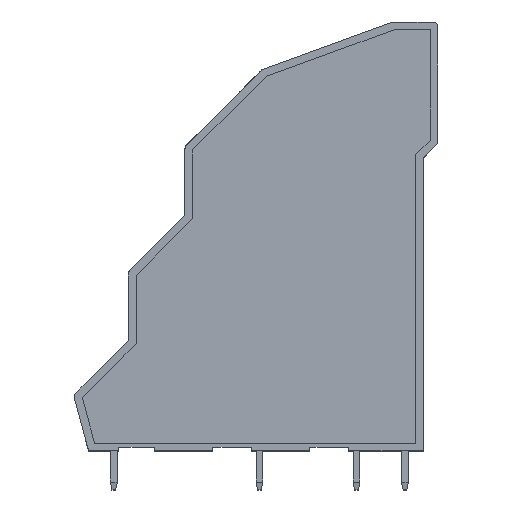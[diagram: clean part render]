
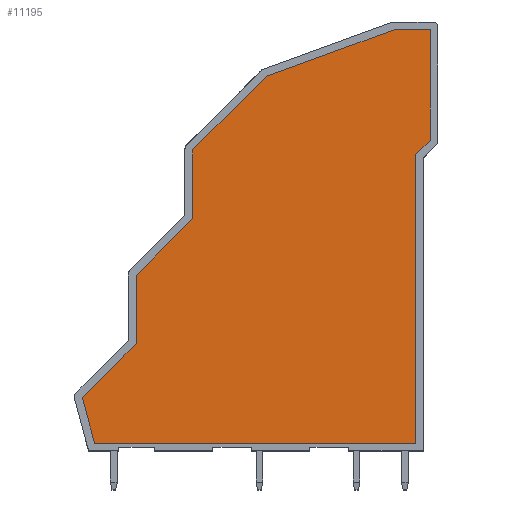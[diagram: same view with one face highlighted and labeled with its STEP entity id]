
A CAD part, top view. The second image highlights one B-rep face of the part: STEP entity #11195.
In plain terms, the highlighted planar face has unit normal (0, 0, 1).
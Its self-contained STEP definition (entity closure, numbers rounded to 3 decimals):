
#3077=DIRECTION('',(0.707,0.707,0.));
#3078=VECTOR('',#3077,10.742);
#3079=CARTESIAN_POINT('',(12.232,31.014,6.8));
#3080=LINE('',#3079,#3078);
#3081=DIRECTION('',(0.94,0.342,0.));
#3082=VECTOR('',#3081,14.005);
#3083=CARTESIAN_POINT('',(19.828,38.61,6.8));
#3084=LINE('',#3083,#3082);
#3085=DIRECTION('',(1.,0.,0.));
#3086=VECTOR('',#3085,3.711);
#3087=CARTESIAN_POINT('',(32.989,43.4,6.8));
#3088=LINE('',#3087,#3086);
#3089=DIRECTION('',(0.,-1.,0.));
#3090=VECTOR('',#3089,11.369);
#3091=CARTESIAN_POINT('',(36.7,43.4,6.8));
#3092=LINE('',#3091,#3090);
#3093=DIRECTION('',(-0.707,-0.707,0.));
#3094=VECTOR('',#3093,2.121);
#3095=CARTESIAN_POINT('',(36.7,32.031,6.8));
#3096=LINE('',#3095,#3094);
#3097=DIRECTION('',(0.,-1.,0.));
#3098=VECTOR('',#3097,29.731);
#3099=CARTESIAN_POINT('',(35.2,30.531,6.8));
#3100=LINE('',#3099,#3098);
#3101=DIRECTION('',(-1.,0.,0.));
#3102=VECTOR('',#3101,33.086);
#3103=CARTESIAN_POINT('',(35.2,0.8,6.8));
#3104=LINE('',#3103,#3102);
#3105=DIRECTION('',(-0.259,0.966,0.));
#3106=VECTOR('',#3105,4.861);
#3107=CARTESIAN_POINT('',(2.114,0.8,6.8));
#3108=LINE('',#3107,#3106);
#3109=DIRECTION('',(0.707,0.707,0.));
#3110=VECTOR('',#3109,7.841);
#3111=CARTESIAN_POINT('',(0.856,5.495,6.8));
#3112=LINE('',#3111,#3110);
#3113=DIRECTION('',(0.,1.,0.));
#3114=VECTOR('',#3113,7.071);
#3115=CARTESIAN_POINT('',(6.4,11.04,6.8));
#3116=LINE('',#3115,#3114);
#3117=DIRECTION('',(0.707,0.707,0.));
#3118=VECTOR('',#3117,8.248);
#3119=CARTESIAN_POINT('',(6.4,18.111,6.8));
#3120=LINE('',#3119,#3118);
#3121=DIRECTION('',(0.,1.,0.));
#3122=VECTOR('',#3121,7.071);
#3123=CARTESIAN_POINT('',(12.232,23.943,6.8));
#3124=LINE('',#3123,#3122);
#6205=CARTESIAN_POINT('',(19.828,38.61,6.8));
#6206=VERTEX_POINT('',#6205);
#6207=CARTESIAN_POINT('',(12.232,31.014,6.8));
#6208=VERTEX_POINT('',#6207);
#6209=CARTESIAN_POINT('',(32.989,43.4,6.8));
#6210=VERTEX_POINT('',#6209);
#6211=CARTESIAN_POINT('',(36.7,43.4,6.8));
#6212=VERTEX_POINT('',#6211);
#6213=CARTESIAN_POINT('',(36.7,32.031,6.8));
#6214=VERTEX_POINT('',#6213);
#6215=CARTESIAN_POINT('',(35.2,30.531,6.8));
#6216=VERTEX_POINT('',#6215);
#6217=CARTESIAN_POINT('',(35.2,0.8,6.8));
#6218=VERTEX_POINT('',#6217);
#6219=CARTESIAN_POINT('',(2.114,0.8,6.8));
#6220=VERTEX_POINT('',#6219);
#6221=CARTESIAN_POINT('',(0.856,5.495,6.8));
#6222=VERTEX_POINT('',#6221);
#6223=CARTESIAN_POINT('',(6.4,11.04,6.8));
#6224=VERTEX_POINT('',#6223);
#6225=CARTESIAN_POINT('',(6.4,18.111,6.8));
#6226=VERTEX_POINT('',#6225);
#6227=CARTESIAN_POINT('',(12.232,23.943,6.8));
#6228=VERTEX_POINT('',#6227);
#11176=CARTESIAN_POINT('',(37.5,813.386,6.8));
#11177=DIRECTION('',(0.,0.,1.));
#11178=DIRECTION('',(1.,0.,0.));
#11179=AXIS2_PLACEMENT_3D('',#11176,#11177,#11178);
#11180=PLANE('',#11179);
#11181=ORIENTED_EDGE('',*,*,#11016,.T.);
#11182=ORIENTED_EDGE('',*,*,#11031,.T.);
#11183=ORIENTED_EDGE('',*,*,#11045,.T.);
#11184=ORIENTED_EDGE('',*,*,#11059,.T.);
#11185=ORIENTED_EDGE('',*,*,#11073,.T.);
#11186=ORIENTED_EDGE('',*,*,#11087,.T.);
#11187=ORIENTED_EDGE('',*,*,#11101,.T.);
#11188=ORIENTED_EDGE('',*,*,#11115,.T.);
#11189=ORIENTED_EDGE('',*,*,#11129,.T.);
#11190=ORIENTED_EDGE('',*,*,#11143,.T.);
#11191=ORIENTED_EDGE('',*,*,#11157,.T.);
#11192=ORIENTED_EDGE('',*,*,#11170,.T.);
#11193=EDGE_LOOP('',(#11181,#11182,#11183,#11184,#11185,#11186,#11187,#11188,
#11189,#11190,#11191,#11192));
#11194=FACE_OUTER_BOUND('',#11193,.F.);
#11195=ADVANCED_FACE('',(#11194),#11180,.T.);
#11016=EDGE_CURVE('',#6208,#6206,#3080,.T.);
#11031=EDGE_CURVE('',#6206,#6210,#3084,.T.);
#11045=EDGE_CURVE('',#6210,#6212,#3088,.T.);
#11059=EDGE_CURVE('',#6212,#6214,#3092,.T.);
#11073=EDGE_CURVE('',#6214,#6216,#3096,.T.);
#11087=EDGE_CURVE('',#6216,#6218,#3100,.T.);
#11101=EDGE_CURVE('',#6218,#6220,#3104,.T.);
#11115=EDGE_CURVE('',#6220,#6222,#3108,.T.);
#11129=EDGE_CURVE('',#6222,#6224,#3112,.T.);
#11143=EDGE_CURVE('',#6224,#6226,#3116,.T.);
#11157=EDGE_CURVE('',#6226,#6228,#3120,.T.);
#11170=EDGE_CURVE('',#6228,#6208,#3124,.T.);
